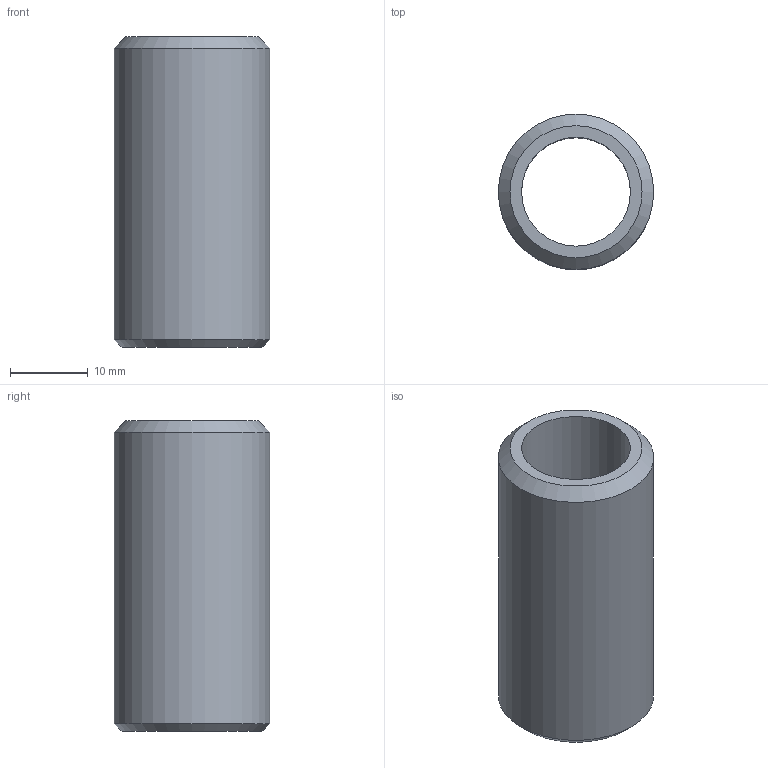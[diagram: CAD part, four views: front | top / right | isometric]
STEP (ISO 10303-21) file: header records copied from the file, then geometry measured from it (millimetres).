
FILE_DESCRIPTION(/* description */ ('','CAx-IF Rec.Pracs.---Representation and Presentation of Product Manufacturing Information (PMI)---4.0---2014-10-13'),/* implementation_level */ '2;1');
FILE_NAME(/* name */ '02 rod 40mm x4 v2.step',/* time_stamp */ '2025-03-15T20:37:43+01:00',/* author */ (''),/* organization */ (''),/* preprocessor_version */ 'ST-DEVELOPER v20',/* originating_system */ 'Autodesk Translation Framework v13.20.0.188',/* authorisation */ '');
FILE_SCHEMA (('AP242_MANAGED_MODEL_BASED_3D_ENGINEERING_MIM_LF { 1 0 10303 442 1 1 4 }'));
Length unit declared in the file: millimetre
Products named in the file (1): rod
Bounding box: 20 x 20 x 40 mm (x, y, z)
Volume: 6311.3 mm3; surface area: 4496.8 mm2
Topology: 1 solids, 1 shells, 6 faces, 10 edges, 6 vertices
Faces by surface type: cylinder 2, cone 2, plane 2
Full cylindrical faces by diameter (mm): 14 x1, 20 x1
Entity records: 181 total; most frequent: DIRECTION 30, CARTESIAN_POINT 23, ORIENTED_EDGE 20, AXIS2_PLACEMENT_3D 13, EDGE_CURVE 10, EDGE_LOOP 8, FACE_OUTER_BOUND 6, CIRCLE 6
